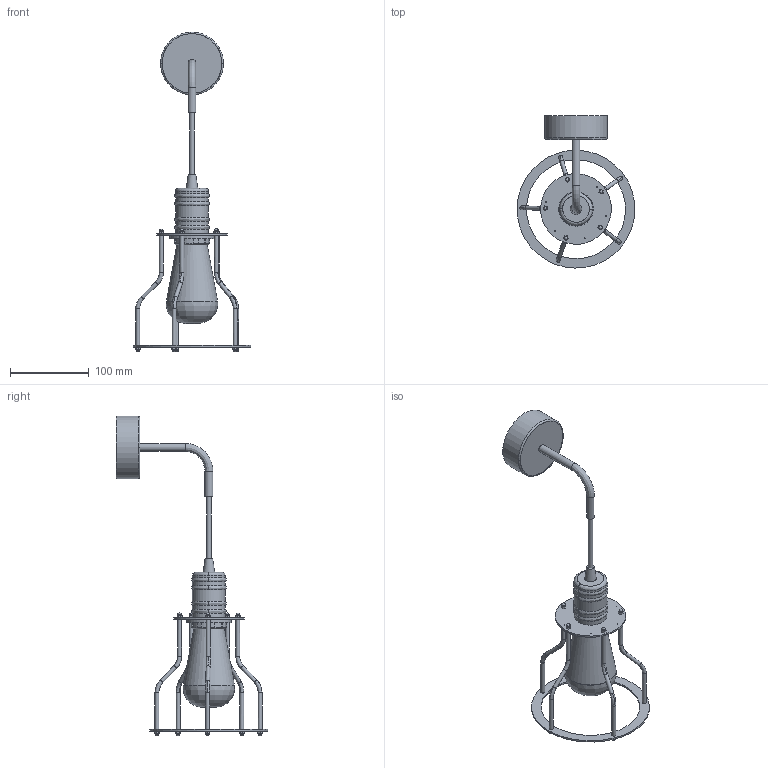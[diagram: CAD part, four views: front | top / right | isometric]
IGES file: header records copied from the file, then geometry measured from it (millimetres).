
Start section: SolidWorks IGES file using analytic representation for surfaces
Global section: file name: X:\PRODUKT\Modele 3D_WWW\_KOLEKCJE WWW\WORKSHOP\WORKSHOP-B-KINKIET-6606\WORKSHOP-B-KINKIET-6606.IGS; native system: SolidWorks 2021; preprocessor: SolidWorks 2021; author: gabriela.tworek; date: 221117.110311; units: millimetre
Bounding box: 149.96 x 192.98 x 407.23 mm (x, y, z)
Surface area: 121765.8 mm2 (no closed solid volume)
Topology: 0 solids, 0 shells, 340 faces, 1377 edges, 1274 vertices
Faces by surface type: bspline 223, revolution 117
